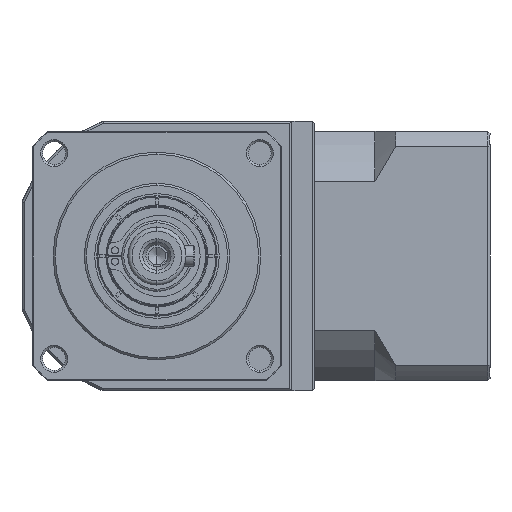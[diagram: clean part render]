
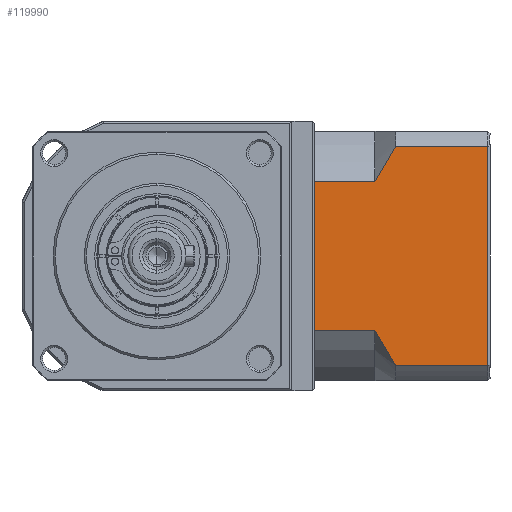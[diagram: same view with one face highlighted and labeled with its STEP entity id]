
A CAD part, left-side view. The second image highlights one B-rep face of the part: STEP entity #119990.
In plain terms, the highlighted planar face has unit normal (-1, 0, 0).
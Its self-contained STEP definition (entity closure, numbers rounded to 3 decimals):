
#1782 = VERTEX_POINT ( 'NONE', #83823 ) ;
#4024 = EDGE_LOOP ( 'NONE', ( #153833, #144326, #138679, #96709, #134948, #35891, #119830, #125649 ) ) ;
#5237 = DIRECTION ( 'NONE',  ( 0., -1., 0. ) ) ;
#8652 = DIRECTION ( 'NONE',  ( 0., 0., -1. ) ) ;
#9106 = CARTESIAN_POINT ( 'NONE',  ( -17.619, -78.863, -141.64 ) ) ;
#9990 = EDGE_CURVE ( 'NONE', #116185, #110513, #16382, .T. ) ;
#13213 = LINE ( 'NONE', #16933, #45670 ) ;
#16382 = LINE ( 'NONE', #126725, #48768 ) ;
#16933 = CARTESIAN_POINT ( 'NONE',  ( -17.619, -106.063, -153.613 ) ) ;
#16953 = CARTESIAN_POINT ( 'NONE',  ( -17.619, -82.964, -98.515 ) ) ;
#22050 = EDGE_CURVE ( 'NONE', #78155, #83747, #78641, .T. ) ;
#29739 = DIRECTION ( 'NONE',  ( 0., 1., 0. ) ) ;
#30975 = LINE ( 'NONE', #142388, #156782 ) ;
#35563 = FACE_OUTER_BOUND ( 'NONE', #4024, .T. ) ;
#35891 = ORIENTED_EDGE ( 'NONE', *, *, #116776, .T. ) ;
#36040 = DIRECTION ( 'NONE',  ( 1., 0., 0. ) ) ;
#41421 = CARTESIAN_POINT ( 'NONE',  ( -17.619, -83.863, -97.155 ) ) ;
#42996 = DIRECTION ( 'NONE',  ( 0., 1., 0. ) ) ;
#45670 = VECTOR ( 'NONE', #89842, 1000. ) ;
#47215 = DIRECTION ( 'NONE',  ( 0., -1., 0. ) ) ;
#47861 = PLANE ( 'NONE',  #58927 ) ;
#48768 = VECTOR ( 'NONE', #5237, 1000. ) ;
#53725 = CARTESIAN_POINT ( 'NONE',  ( -17.619, -79.611, -104.133 ) ) ;
#54538 = LINE ( 'NONE', #90463, #147824 ) ;
#55324 = CARTESIAN_POINT ( 'NONE',  ( -17.619, -78.863, -141.64 ) ) ;
#58927 = AXIS2_PLACEMENT_3D ( 'NONE', #109043, #36040, #121269 ) ;
#59668 = CARTESIAN_POINT ( 'NONE',  ( -17.619, -78.863, -141.64 ) ) ;
#62548 = EDGE_CURVE ( 'NONE', #95158, #110513, #77462, .T. ) ;
#71933 = CARTESIAN_POINT ( 'NONE',  ( -17.619, -82.088, -147.327 ) ) ;
#72446 = EDGE_CURVE ( 'NONE', #78155, #141945, #100593, .T. ) ;
#74329 = CARTESIAN_POINT ( 'NONE',  ( -17.619, -106.063, -150.07 ) ) ;
#77289 = CARTESIAN_POINT ( 'NONE',  ( -17.619, -64.363, -105.585 ) ) ;
#77462 = B_SPLINE_CURVE_WITH_KNOTS ( 'NONE', 3,
 ( #41421, #16953, #89866, #126633, #53725, #138895 ),
 .UNSPECIFIED., .F., .F.,
 ( 4, 2, 4 ),
 ( 0.052, 0.057, 0.062 ),
 .UNSPECIFIED. ) ;
#78155 = VERTEX_POINT ( 'NONE', #9106 ) ;
#78641 = B_SPLINE_CURVE_WITH_KNOTS ( 'NONE', 3,
 ( #59668, #132560, #144856, #71933, #157123, #84122 ),
 .UNSPECIFIED., .F., .F.,
 ( 4, 2, 4 ),
 ( 0.1, 0.104, 0.109 ),
 .UNSPECIFIED. ) ;
#82556 = EDGE_CURVE ( 'NONE', #144766, #1782, #13213, .T. ) ;
#83747 = VERTEX_POINT ( 'NONE', #109428 ) ;
#83823 = CARTESIAN_POINT ( 'NONE',  ( -17.619, -106.063, -97.155 ) ) ;
#84122 = CARTESIAN_POINT ( 'NONE',  ( -17.619, -83.863, -150.07 ) ) ;
#89440 = EDGE_CURVE ( 'NONE', #144766, #83747, #54538, .T. ) ;
#89842 = DIRECTION ( 'NONE',  ( 0., 0., 1. ) ) ;
#89866 = CARTESIAN_POINT ( 'NONE',  ( -17.619, -82.091, -99.894 ) ) ;
#90463 = CARTESIAN_POINT ( 'NONE',  ( -17.619, -78.863, -150.07 ) ) ;
#95158 = VERTEX_POINT ( 'NONE', #128352 ) ;
#96709 = ORIENTED_EDGE ( 'NONE', *, *, #62548, .T. ) ;
#100593 = LINE ( 'NONE', #55324, #132993 ) ;
#107849 = CARTESIAN_POINT ( 'NONE',  ( -17.619, -64.363, -141.64 ) ) ;
#108011 = LINE ( 'NONE', #132332, #140438 ) ;
#109043 = CARTESIAN_POINT ( 'NONE',  ( -17.619, -106.563, -153.613 ) ) ;
#109428 = CARTESIAN_POINT ( 'NONE',  ( -17.619, -83.863, -150.07 ) ) ;
#110513 = VERTEX_POINT ( 'NONE', #142401 ) ;
#116185 = VERTEX_POINT ( 'NONE', #77289 ) ;
#116776 = EDGE_CURVE ( 'NONE', #116185, #141945, #30975, .T. ) ;
#119830 = ORIENTED_EDGE ( 'NONE', *, *, #72446, .F. ) ;
#119990 = ADVANCED_FACE ( 'NONE', ( #35563 ), #47861, .F. ) ;
#121269 = DIRECTION ( 'NONE',  ( 0., 1., 0. ) ) ;
#125649 = ORIENTED_EDGE ( 'NONE', *, *, #22050, .T. ) ;
#126633 = CARTESIAN_POINT ( 'NONE',  ( -17.619, -80.415, -102.701 ) ) ;
#126725 = CARTESIAN_POINT ( 'NONE',  ( -17.619, -78.863, -105.585 ) ) ;
#128352 = CARTESIAN_POINT ( 'NONE',  ( -17.619, -83.863, -97.155 ) ) ;
#130989 = EDGE_CURVE ( 'NONE', #95158, #1782, #108011, .T. ) ;
#132332 = CARTESIAN_POINT ( 'NONE',  ( -17.619, -78.863, -97.155 ) ) ;
#132560 = CARTESIAN_POINT ( 'NONE',  ( -17.619, -79.614, -143.097 ) ) ;
#132993 = VECTOR ( 'NONE', #42996, 1000. ) ;
#134948 = ORIENTED_EDGE ( 'NONE', *, *, #9990, .F. ) ;
#138679 = ORIENTED_EDGE ( 'NONE', *, *, #130989, .F. ) ;
#138895 = CARTESIAN_POINT ( 'NONE',  ( -17.619, -78.863, -105.585 ) ) ;
#140438 = VECTOR ( 'NONE', #47215, 1000. ) ;
#141945 = VERTEX_POINT ( 'NONE', #107849 ) ;
#142388 = CARTESIAN_POINT ( 'NONE',  ( -17.619, -64.363, -153.613 ) ) ;
#142401 = CARTESIAN_POINT ( 'NONE',  ( -17.619, -78.863, -105.585 ) ) ;
#144326 = ORIENTED_EDGE ( 'NONE', *, *, #82556, .T. ) ;
#144766 = VERTEX_POINT ( 'NONE', #74329 ) ;
#144856 = CARTESIAN_POINT ( 'NONE',  ( -17.619, -80.414, -144.522 ) ) ;
#147824 = VECTOR ( 'NONE', #29739, 1000. ) ;
#153833 = ORIENTED_EDGE ( 'NONE', *, *, #89440, .F. ) ;
#156782 = VECTOR ( 'NONE', #8652, 1000. ) ;
#157123 = CARTESIAN_POINT ( 'NONE',  ( -17.619, -82.962, -148.707 ) ) ;
